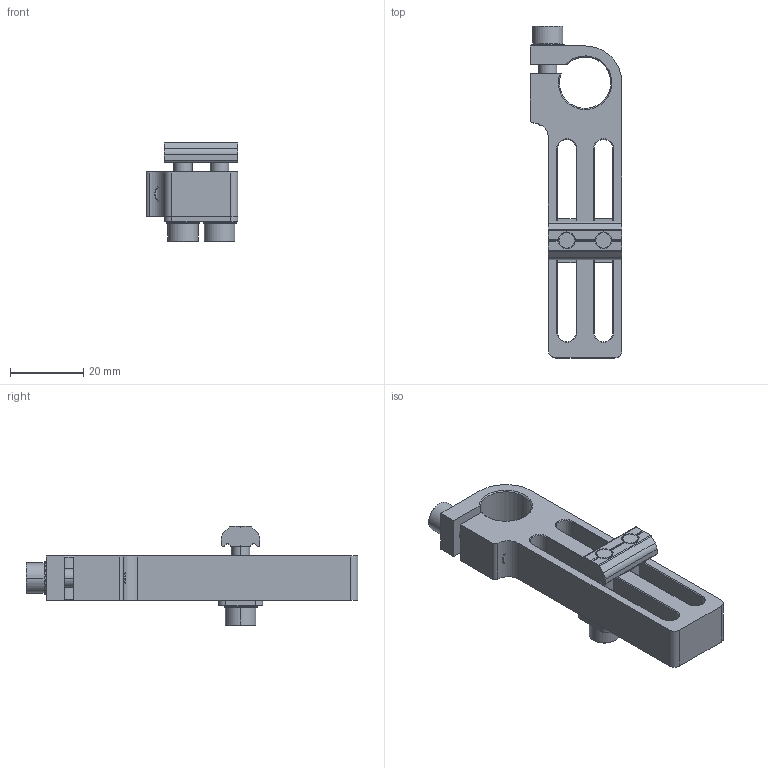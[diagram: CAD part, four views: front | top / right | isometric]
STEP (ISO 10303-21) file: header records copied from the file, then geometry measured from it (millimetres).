
FILE_DESCRIPTION (( 'STEP AP214' ), '1' );
FILE_NAME ('SMBE2-1450.STEP', '2019-11-01T01:07:17', ( '微软用户' ), ( '微软中国' ), 'SwSTEP 2.0', 'SolidWorks 2016', '' );
FILE_SCHEMA (( 'AUTOMOTIVE_DESIGN' ));
Length unit declared in the file: millimetre
Products named in the file (6): PTS-M5; PTN-M5P10; PTD-M5P10; PTC-M5L22; SMBE2-1450
Assembly tree (9 placements, depth 2):
  SMBE2-1450
    SMBE2-1450
    PTC-M5L22  x3
    PTD-M5P10
    PTN-M5P10
    PTS-M5  x3
Bounding box: 25 x 90.45 x 27 mm (x, y, z)
Volume: 15494.2 mm3; surface area: 11818.7 mm2
Topology: 9 solids, 9 shells, 672 faces, 1932 edges, 1273 vertices
Faces by surface type: plane 566, cylinder 70, cone 36
Entity records: 10318 total; most frequent: CARTESIAN_POINT 1947, DIRECTION 1740, ORIENTED_EDGE 1724, EDGE_CURVE 862, AXIS2_PLACEMENT_3D 598, VERTEX_POINT 565, LINE 544, VECTOR 544
